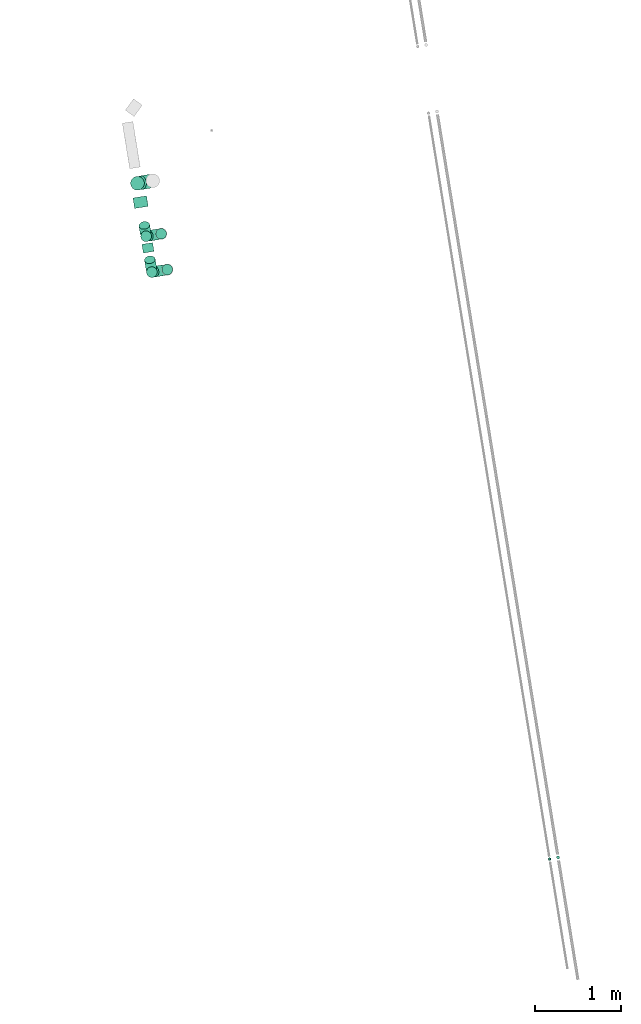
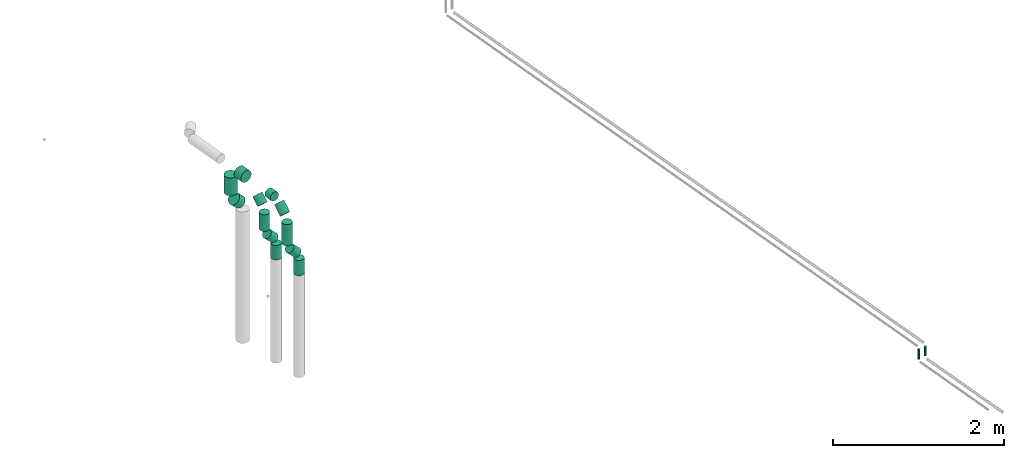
# One storey, part 3 of 11: 14 flow segments.
"""IFC2X3 building model written with IfcOpenShell, lengths in millimetres."""

from ifc_helpers import new_model, entity, si_unit, converted_unit, derived_unit, direction, frame, frame_2d, origin, origin_with_axes, origin_2d_with_axis, place, context, subcontext, project, spatial, circle, extrude, type_object, element, save


model = new_model("IFC2X3")

# Units and contexts
plan_context = context("Plan", 3, precision=1e-05, world=origin_with_axes())
model_context = context("Model", 3, precision=0.01, world=origin(), true_north=direction((6.12323399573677e-17, 1.0)))
body_context = subcontext(model_context, "Body", "Model", "MODEL_VIEW")
ifc_project = project(units=[converted_unit("PLANEANGLEUNIT", "DEGREE", entity("IfcPositiveLengthMeasure", 0.0174532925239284), si_unit("PLANEANGLEUNIT", "RADIAN"), dimensions=[0, 0, 0, 0, 0, 0, 0]), si_unit("AREAUNIT", "SQUARE_METRE"), si_unit("LENGTHUNIT", "METRE", prefix="MILLI"), si_unit("MASSUNIT", "GRAM", prefix="KILO"), si_unit("POWERUNIT", "WATT"), si_unit("PRESSUREUNIT", "PASCAL", prefix="KILO"), si_unit("FORCEUNIT", "NEWTON", prefix="KILO"), si_unit("ELECTRICVOLTAGEUNIT", "VOLT"), si_unit("ELECTRICCURRENTUNIT", "AMPERE"), si_unit("THERMODYNAMICTEMPERATUREUNIT", "DEGREE_CELSIUS"), si_unit("TIMEUNIT", "SECOND"), si_unit("VOLUMEUNIT", "CUBIC_METRE"), derived_unit("LINEARVELOCITYUNIT", [(si_unit("LENGTHUNIT", "METRE"), 1), (si_unit("TIMEUNIT", "SECOND"), -1)]), derived_unit("VOLUMETRICFLOWRATEUNIT", [(si_unit("VOLUMEUNIT", "CUBIC_METRE"), 1), (si_unit("TIMEUNIT", "SECOND"), -1)]), derived_unit("THERMALTRANSMITTANCEUNIT", [(si_unit("POWERUNIT", "WATT"), 1), (si_unit("THERMODYNAMICTEMPERATUREUNIT", "KELVIN"), -1), (si_unit("AREAUNIT", "SQUARE_METRE"), -1)]), derived_unit("SOUNDPRESSUREUNIT", [(si_unit("PRESSUREUNIT", "PASCAL"), 1)])], contexts=[model_context, plan_context])

# Site, building, storey
site_placement = place(None, frame((-0.000710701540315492, 0.00438415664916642, 0.0), z_axis=(0.0, 0.0, 1.0), x_axis=(-0.160236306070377, 0.987078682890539, 0.0)))
site = spatial("IfcSite", under=ifc_project, at=site_placement, Name="Default", CompositionType="ELEMENT")
building_placement = place(site_placement, origin_with_axes())
building = spatial("IfcBuilding", under=site, at=building_placement, CompositionType="ELEMENT")
storey_placement = place(building_placement, frame((0.0, 0.0, 58999.9999999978), z_axis=(0.0, 0.0, 1.0), x_axis=(1.0, 0.0, 0.0)))
storey = spatial("IfcBuildingStorey", under=building, at=storey_placement, Name="Nivå F", CompositionType="ELEMENT", Elevation=58999.9999999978)

# Flow segments
pipe_segment_type_1 = type_object("IfcPipeSegmentType", Name="Pipe Types:Rustfrie stålrør", PredefinedType="NOTDEFINED")
flow_segment_1_placement = place(storey_placement, origin_with_axes())
element("IfcFlowSegment", 1, at=flow_segment_1_placement, inside=storey, type_object=pipe_segment_type_1, Name="Pipe Types:Rustfrie stålrør", ObjectType="Pipe Types:Rustfrie stålrør", context=body_context, shape_type="SweptSolid", body=[
    extrude(circle(Radius=62.500000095, at=origin_2d_with_axis()), frame((771672.625597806, -501142.128505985, 2003.40987055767), z_axis=(0.0, 0.0, 1.0), x_axis=(-1.0, 0.0, 0.0)), (0.0, 0.0, 1.0), 306.605198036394),
])
flow_segment_2_placement = place(storey_placement, origin_with_axes())
element("IfcFlowSegment", 2, at=flow_segment_2_placement, inside=storey, type_object=pipe_segment_type_1, Name="Pipe Types:Rustfrie stålrør", ObjectType="Pipe Types:Rustfrie stålrør", context=body_context, shape_type="SweptSolid", body=[
    extrude(circle(Radius=62.500000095, at=frame_2d((0.0, -6.12562152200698e-12), x_axis=(1.0, 0.0))), frame((771709.237250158, -501142.128505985, 2398.40341624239), z_axis=(0.707106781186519, 0.0, 0.707106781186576), x_axis=(0.0, -1.0, 0.0)), (0.0, 0.0, 1.0), 152.808476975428),
])
flow_segment_3_placement = place(storey_placement, origin_with_axes())
element("IfcFlowSegment", 3, at=flow_segment_3_placement, inside=storey, type_object=pipe_segment_type_1, Name="Pipe Types:Rustfrie stålrør", ObjectType="Pipe Types:Rustfrie stålrør", context=body_context, shape_type="SweptSolid", body=[
    extrude(circle(Radius=80.0000001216, at=origin_2d_with_axis()), frame((772431.011893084, -501142.128505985, 2543.06697888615), z_axis=(1.0, 0.0, 0.0), x_axis=(0.0, -1.0, 0.0)), (0.0, 0.0, 1.0), 122.725397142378),
])
flow_segment_4_placement = place(storey_placement, origin_with_axes())
element("IfcFlowSegment", 4, at=flow_segment_4_placement, inside=storey, type_object=pipe_segment_type_1, Name="Pipe Types:Rustfrie stålrør", ObjectType="Pipe Types:Rustfrie stålrør", context=body_context, shape_type="SweptSolid", body=[
    extrude(circle(Radius=62.500000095, at=origin_2d_with_axis()), frame((771905.677508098, -501142.128505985, 2543.06697888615), z_axis=(1.0, 0.0, 0.0), x_axis=(0.0, -1.0, 0.0)), (0.0, 0.0, 1.0), 102.074193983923),
])
flow_segment_5_placement = place(storey_placement, origin_with_axes())
element("IfcFlowSegment", 5, at=flow_segment_5_placement, inside=storey, type_object=pipe_segment_type_1, Name="Pipe Types:Rustfrie stålrør", ObjectType="Pipe Types:Rustfrie stålrør", context=body_context, shape_type="SweptSolid", body=[
    extrude(circle(Radius=62.500000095, at=origin_2d_with_axis()), frame((772129.231582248, -501142.128505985, 2310.4808418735), z_axis=(0.707106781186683, 0.0, 0.707106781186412), x_axis=(0.0, 1.0, 0.0)), (0.0, 0.0, 1.0), 128.289384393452),
])
flow_segment_6_placement = place(storey_placement, origin_with_axes())
element("IfcFlowSegment", 6, at=flow_segment_6_placement, inside=storey, type_object=pipe_segment_type_1, Name="Pipe Types:Rustfrie stålrør", ObjectType="Pipe Types:Rustfrie stålrør", context=body_context, shape_type="SweptSolid", body=[
    extrude(circle(Radius=62.500000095, at=frame_2d((-2.80860902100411e-17, -4.45185699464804e-11), x_axis=(1.0, 0.0))), frame((772092.619718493, -501142.957689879, 1983.67276538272), z_axis=(0.0, 0.00285661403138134, 0.999995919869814), x_axis=(1.0, 6.30882250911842e-07, -1.80219444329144e-09)), (-1.80219975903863e-09, 0.0, 1.0), 238.420402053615),
])
flow_segment_7_placement = place(storey_placement, origin_with_axes())
element("IfcFlowSegment", 7, at=flow_segment_7_placement, inside=storey, type_object=pipe_segment_type_1, Name="Pipe Types:Rustfrie stålrør", ObjectType="Pipe Types:Rustfrie stålrør", context=body_context, shape_type="SweptSolid", body=[
    extrude(circle(Radius=62.500000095, at=frame_2d((7.33779308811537e-33, 6.12562152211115e-12), x_axis=(1.0, 0.0))), frame((771672.626483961, -501285.67582943, 1808.08585181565), z_axis=(-5.85965183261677e-06, 0.707106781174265, 0.707106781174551), x_axis=(-1.0, -8.28679909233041e-06, 0.0)), (0.0, 0.0, 1.0), 151.229876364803),
])
flow_segment_8_placement = place(storey_placement, origin_with_axes())
element("IfcFlowSegment", 8, at=flow_segment_8_placement, inside=storey, type_object=pipe_segment_type_1, Name="Pipe Types:Rustfrie stålrør", ObjectType="Pipe Types:Rustfrie stålrør", context=body_context, shape_type="SweptSolid", body=[
    extrude(circle(Radius=62.500000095, at=origin_2d_with_axis()), frame((771672.626483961, -501322.287481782, 1500.0000000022)), (0.0, 0.0, 1.0), 219.697504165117),
])
flow_segment_9_placement = place(storey_placement, origin_with_axes())
element("IfcFlowSegment", 9, at=flow_segment_9_placement, inside=storey, type_object=pipe_segment_type_1, Name="Pipe Types:Rustfrie stålrør", ObjectType="Pipe Types:Rustfrie stålrør", context=body_context, shape_type="SweptSolid", body=[
    extrude(circle(Radius=62.500000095, at=frame_2d((0.0, -4.90049721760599e-11), x_axis=(1.0, 0.0))), frame((772092.619723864, -501281.642117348, 1793.54060645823), z_axis=(0.0, 0.707106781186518, 0.707106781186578), x_axis=(-1.0, 0.0, 0.0)), (0.0, 0.0, 1.0), 144.35331670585),
])
flow_segment_10_placement = place(storey_placement, origin_with_axes())
element("IfcFlowSegment", 10, at=flow_segment_10_placement, inside=storey, type_object=pipe_segment_type_1, Name="Pipe Types:Rustfrie stålrør", ObjectType="Pipe Types:Rustfrie stålrør", context=body_context, shape_type="SweptSolid", body=[
    extrude(circle(Radius=62.500000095, at=origin_2d_with_axis()), frame((772092.619723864, -501318.2537697, 1500.0000000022)), (0.0, 0.0, 1.0), 205.152258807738),
])
flow_segment_11_placement = place(storey_placement, origin_with_axes())
element("IfcFlowSegment", 11, at=flow_segment_11_placement, inside=storey, type_object=pipe_segment_type_1, Name="Pipe Types:Rustfrie stålrør", ObjectType="Pipe Types:Rustfrie stålrør", context=body_context, shape_type="SweptSolid", body=[
    extrude(circle(Radius=80.0000001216, at=origin_2d_with_axis()), frame((772713.737290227, -501142.128505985, 2168.07365084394)), (0.0, 0.0, 1.0), 254.993328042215),
])
flow_segment_12_placement = place(storey_placement, origin_with_axes())
element("IfcFlowSegment", 12, at=flow_segment_12_placement, inside=storey, type_object=pipe_segment_type_1, Name="Pipe Types:Rustfrie stålrør", ObjectType="Pipe Types:Rustfrie stålrør", context=body_context, shape_type="SweptSolid", body=[
    extrude(circle(Radius=80.0000001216, at=origin_2d_with_axis()), frame((772713.737290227, -501273.999865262, 1969.92812158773), z_axis=(0.0, 0.7071067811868, 0.707106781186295), x_axis=(-1.0, 0.0, 0.0)), (0.0, 0.0, 1.0), 120.220094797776),
])
pipe_segment_type_2 = type_object("IfcPipeSegmentType", Name="Pipe Types:Kobberrør", PredefinedType="NOTDEFINED")
flow_segment_13_placement = place(storey_placement, origin_with_axes())
element("IfcFlowSegment", 13, at=flow_segment_13_placement, inside=storey, type_object=pipe_segment_type_2, Name="Pipe Types:Kobberrør", ObjectType="Pipe Types:Kobberrør", context=body_context, shape_type="SweptSolid", body=[
    extrude(circle(Radius=14.0, at=origin_2d_with_axis()), frame((764231.695187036, -504595.65053932, 2858.0), z_axis=(0.0, 0.0, 1.0), x_axis=(-1.0, 0.0, 0.0)), (0.0, 0.0, 1.0), 143.999999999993),
])
flow_segment_14_placement = place(storey_placement, origin_with_axes())
element("IfcFlowSegment", 14, at=flow_segment_14_placement, inside=storey, type_object=pipe_segment_type_2, Name="Pipe Types:Kobberrør", ObjectType="Pipe Types:Kobberrør", context=body_context, shape_type="SweptSolid", body=[
    extrude(circle(Radius=17.5, at=frame_2d((0.0, -6.93034962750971e-11), x_axis=(1.0, 0.0))), frame((764234.695187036, -504695.65053932, 2865.0), z_axis=(0.0, 0.0, 1.0), x_axis=(-1.0, 0.0, 0.0)), (0.0, 0.0, 1.0), 130.000000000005),
])

save(model, "model.ifc")
